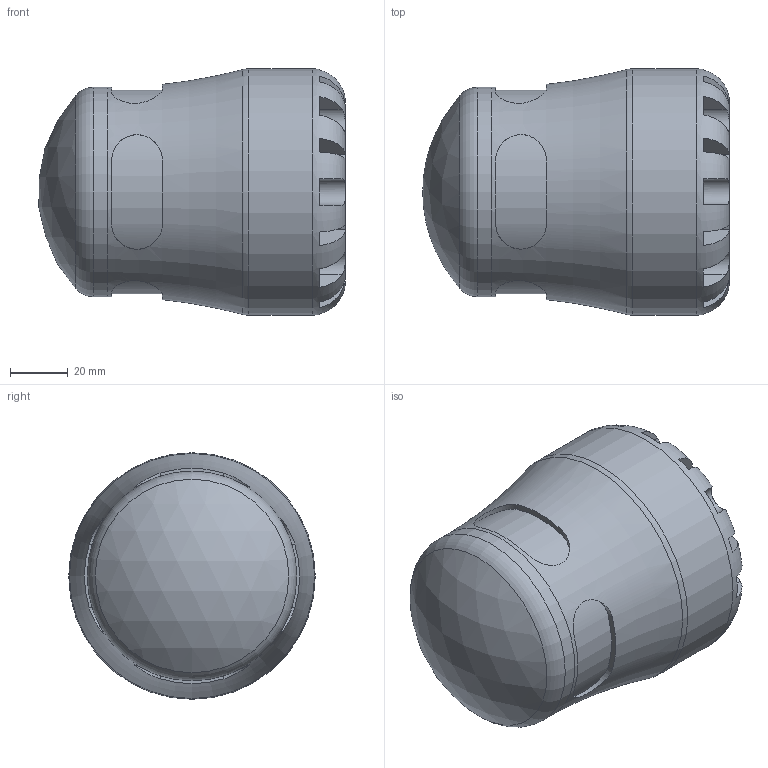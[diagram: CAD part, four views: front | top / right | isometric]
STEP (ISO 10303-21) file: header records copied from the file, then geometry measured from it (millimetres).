
FILE_DESCRIPTION(/* description */ ('PLASSON G-PLASS END CAP 50'),/* implementation_level */ '2;1');
FILE_NAME(/* name */ 'C:\Users\Kirill\Dropbox\99-16-3568-Processing\S1\151200\stp\151200050.stp',/* time_stamp */ '2023-10-21T22:52:21+04:00',/* author */ ('KIM'),/* organization */ (''),/* preprocessor_version */ 'ST-DEVELOPER v17.2',/* originating_system */ 'Autodesk Inventor 2019',/* authorisation */ '');
FILE_SCHEMA (('AUTOMOTIVE_DESIGN { 1 0 10303 214 3 1 1 }'));
Length unit declared in the file: millimetre
Products named in the file (1): 151200050
Bounding box: 105.72 x 85 x 85 mm (x, y, z)
Volume: 295704.2 mm3; surface area: 47760.3 mm2
Topology: 1 solids, 1 shells, 95 faces, 249 edges, 160 vertices
Faces by surface type: plane 57, cylinder 31, torus 4, sphere 2, cone 1
Full cylindrical faces by diameter (mm): 50 x1, 72.25 x1, 85 x1
Entity records: 3876 total; most frequent: CARTESIAN_POINT 1453, ORIENTED_EDGE 498, DIRECTION 478, EDGE_CURVE 249, AXIS2_PLACEMENT_3D 197, VERTEX_POINT 160, CIRCLE 101, EDGE_LOOP 99
